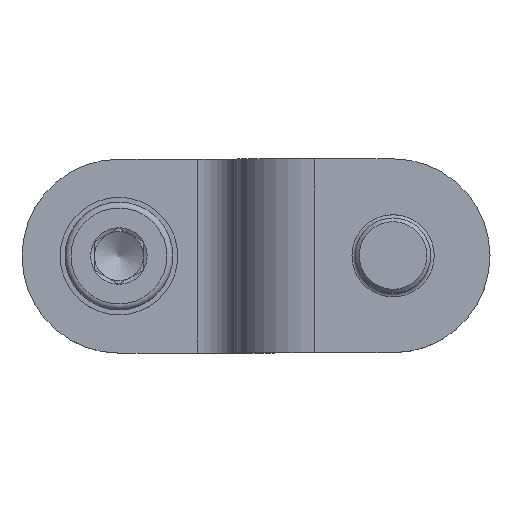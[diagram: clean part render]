
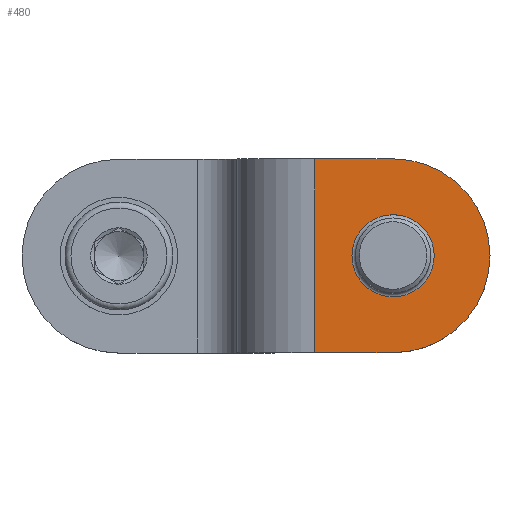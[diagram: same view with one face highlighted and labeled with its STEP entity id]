
A CAD part, top view. The second image highlights one B-rep face of the part: STEP entity #480.
In plain terms, the highlighted planar face has unit normal (0, 0, 1).
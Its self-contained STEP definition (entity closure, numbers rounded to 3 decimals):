
#232=PLANE('',#1431);
#340=LINE('',#2022,#408);
#346=LINE('',#2039,#414);
#357=LINE('',#2068,#425);
#408=VECTOR('',#1603,1.);
#414=VECTOR('',#1617,1.);
#425=VECTOR('',#1644,1.);
#480=ADVANCED_FACE('',(#589,#590),#232,.F.);
#589=FACE_BOUND('',#653,.T.);
#590=FACE_BOUND('',#654,.T.);
#653=EDGE_LOOP('',(#805,#806,#807,#808));
#654=EDGE_LOOP('',(#809));
#805=ORIENTED_EDGE('',*,*,#1189,.F.);
#806=ORIENTED_EDGE('',*,*,#1213,.T.);
#807=ORIENTED_EDGE('',*,*,#1198,.T.);
#808=ORIENTED_EDGE('',*,*,#1214,.F.);
#809=ORIENTED_EDGE('',*,*,#1215,.T.);
#1085=VERTEX_POINT('',#2021);
#1086=VERTEX_POINT('',#2023);
#1093=VERTEX_POINT('',#2040);
#1094=VERTEX_POINT('',#2041);
#1103=VERTEX_POINT('',#2071);
#1189=EDGE_CURVE('',#1085,#1086,#340,.T.);
#1198=EDGE_CURVE('',#1093,#1094,#346,.T.);
#1213=EDGE_CURVE('',#1085,#1093,#357,.T.);
#1214=EDGE_CURVE('',#1086,#1094,#1351,.T.);
#1215=EDGE_CURVE('',#1103,#1103,#1352,.T.);
#1351=CIRCLE('',#1429,4.95);
#1352=CIRCLE('',#1430,2.1);
#1429=AXIS2_PLACEMENT_3D('',#2069,#1645,#1646);
#1430=AXIS2_PLACEMENT_3D('',#2070,#1647,#1648);
#1431=AXIS2_PLACEMENT_3D('',#2072,#1649,#1650);
#1603=DIRECTION('',(1.,0.,0.));
#1617=DIRECTION('',(1.,0.,0.));
#1644=DIRECTION('',(0.,-1.,0.));
#1645=DIRECTION('',(0.,0.,-1.));
#1646=DIRECTION('',(0.,1.,0.));
#1647=DIRECTION('',(0.,0.,-1.));
#1648=DIRECTION('',(0.,1.,0.));
#1649=DIRECTION('',(0.,0.,-1.));
#1650=DIRECTION('',(0.,-1.,0.));
#2021=CARTESIAN_POINT('',(10.,4.95,10.));
#2022=CARTESIAN_POINT('',(7.,4.95,10.));
#2023=CARTESIAN_POINT('',(14.,4.95,10.));
#2039=CARTESIAN_POINT('',(7.,-4.95,10.));
#2040=CARTESIAN_POINT('',(10.,-4.95,10.));
#2041=CARTESIAN_POINT('',(14.,-4.95,10.));
#2068=CARTESIAN_POINT('',(10.,-4.95,10.));
#2069=CARTESIAN_POINT('',(14.,0.,10.));
#2070=CARTESIAN_POINT('',(14.,0.,10.));
#2071=CARTESIAN_POINT('',(14.,2.1,10.));
#2072=CARTESIAN_POINT('',(7.,4.95,10.));
